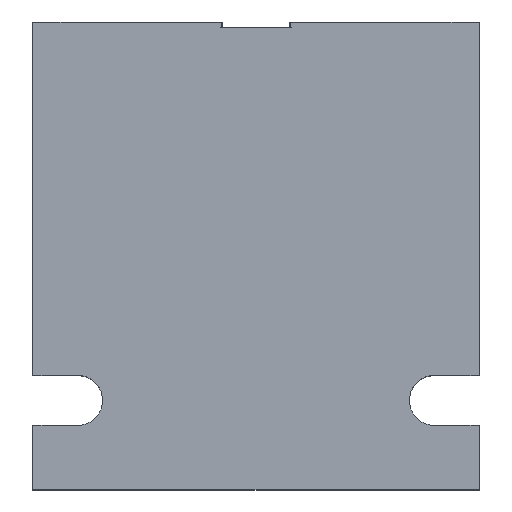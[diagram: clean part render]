
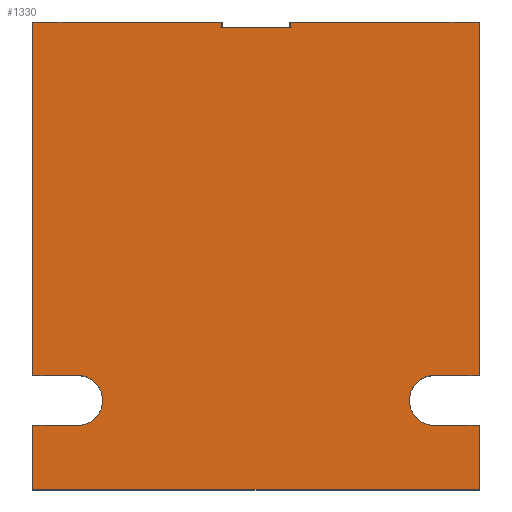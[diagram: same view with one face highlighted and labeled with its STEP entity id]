
A CAD part, top view. The second image highlights one B-rep face of the part: STEP entity #1330.
In plain terms, the highlighted planar face has unit normal (0, 0, 1).
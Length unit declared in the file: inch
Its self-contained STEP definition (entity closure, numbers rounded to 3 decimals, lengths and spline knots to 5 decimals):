
#9=DIRECTION('',(-1.,0.,0.));
#10=VECTOR('',#9,1.05767);
#11=CARTESIAN_POINT('',(2.5,0.,0.));
#12=LINE('',#11,#10);
#13=DIRECTION('',(-1.,0.,0.));
#14=VECTOR('',#13,1.05767);
#15=CARTESIAN_POINT('',(1.05767,0.,0.));
#16=LINE('',#15,#14);
#45=DIRECTION('',(1.,0.,0.));
#46=VECTOR('',#45,0.38467);
#47=CARTESIAN_POINT('',(1.05767,-0.031,0.));
#48=LINE('',#47,#46);
#49=DIRECTION('',(0.,1.,0.));
#50=VECTOR('',#49,0.031);
#51=CARTESIAN_POINT('',(1.44233,-0.031,0.));
#52=LINE('',#51,#50);
#53=DIRECTION('',(0.,-1.,0.));
#54=VECTOR('',#53,1.9795);
#55=CARTESIAN_POINT('',(2.5,0.,0.));
#56=LINE('',#55,#54);
#57=DIRECTION('',(-1.,0.,0.));
#58=VECTOR('',#57,0.25);
#59=CARTESIAN_POINT('',(2.5,-1.9795,0.));
#60=LINE('',#59,#58);
#61=CARTESIAN_POINT('',(2.25,-2.12,0.));
#62=DIRECTION('',(0.,0.,1.));
#63=DIRECTION('',(0.,1.,0.));
#64=AXIS2_PLACEMENT_3D('',#61,#62,#63);
#66=DIRECTION('',(-1.,0.,0.));
#67=VECTOR('',#66,0.25);
#68=CARTESIAN_POINT('',(2.5,-2.2605,0.));
#69=LINE('',#68,#67);
#70=DIRECTION('',(0.,-1.,0.));
#71=VECTOR('',#70,0.3595);
#72=CARTESIAN_POINT('',(2.5,-2.2605,0.));
#73=LINE('',#72,#71);
#74=DIRECTION('',(1.,0.,0.));
#75=VECTOR('',#74,0.25);
#76=CARTESIAN_POINT('',(0.,-2.2605,0.));
#77=LINE('',#76,#75);
#78=CARTESIAN_POINT('',(0.25,-2.12,0.));
#79=DIRECTION('',(0.,0.,1.));
#80=DIRECTION('',(0.,-1.,0.));
#81=AXIS2_PLACEMENT_3D('',#78,#79,#80);
#83=DIRECTION('',(1.,0.,0.));
#84=VECTOR('',#83,0.25);
#85=CARTESIAN_POINT('',(0.,-1.9795,0.));
#86=LINE('',#85,#84);
#87=DIRECTION('',(0.,1.,0.));
#88=VECTOR('',#87,0.031);
#89=CARTESIAN_POINT('',(1.05767,-0.031,0.));
#90=LINE('',#89,#88);
#310=DIRECTION('',(0.,-1.,0.));
#311=VECTOR('',#310,1.9795);
#312=CARTESIAN_POINT('',(0.,0.,0.));
#313=LINE('',#312,#311);
#318=DIRECTION('',(0.,-1.,0.));
#319=VECTOR('',#318,0.3595);
#320=CARTESIAN_POINT('',(0.,-2.2605,0.));
#321=LINE('',#320,#319);
#390=DIRECTION('',(-1.,0.,0.));
#391=VECTOR('',#390,2.5);
#392=CARTESIAN_POINT('',(2.5,-2.62,0.));
#393=LINE('',#392,#391);
#995=CARTESIAN_POINT('',(0.,0.,0.));
#997=VERTEX_POINT('',#995);
#1000=CARTESIAN_POINT('',(2.5,0.,0.));
#1002=VERTEX_POINT('',#1000);
#1003=CARTESIAN_POINT('',(0.,-2.62,0.));
#1005=VERTEX_POINT('',#1003);
#1009=CARTESIAN_POINT('',(2.5,-2.62,0.));
#1010=VERTEX_POINT('',#1009);
#1011=CARTESIAN_POINT('',(0.,-1.9795,0.));
#1013=VERTEX_POINT('',#1011);
#1015=CARTESIAN_POINT('',(0.,-2.2605,0.));
#1017=VERTEX_POINT('',#1015);
#1031=CARTESIAN_POINT('',(2.5,-2.2605,0.));
#1032=VERTEX_POINT('',#1031);
#1033=CARTESIAN_POINT('',(2.5,-1.9795,0.));
#1034=VERTEX_POINT('',#1033);
#1035=CARTESIAN_POINT('',(0.25,-2.2605,0.));
#1036=CARTESIAN_POINT('',(0.25,-1.9795,0.));
#1037=VERTEX_POINT('',#1035);
#1038=VERTEX_POINT('',#1036);
#1039=CARTESIAN_POINT('',(2.25,-1.9795,0.));
#1040=CARTESIAN_POINT('',(2.25,-2.2605,0.));
#1041=VERTEX_POINT('',#1039);
#1042=VERTEX_POINT('',#1040);
#1093=CARTESIAN_POINT('',(1.05767,-0.031,0.));
#1094=CARTESIAN_POINT('',(1.44233,-0.031,0.));
#1095=VERTEX_POINT('',#1093);
#1096=VERTEX_POINT('',#1094);
#1097=CARTESIAN_POINT('',(1.05767,0.,0.));
#1098=VERTEX_POINT('',#1097);
#1099=CARTESIAN_POINT('',(1.44233,0.,0.));
#1100=VERTEX_POINT('',#1099);
#1295=CARTESIAN_POINT('',(2.5,0.,0.));
#1296=DIRECTION('',(0.,0.,1.));
#1297=DIRECTION('',(-1.,0.,0.));
#1298=AXIS2_PLACEMENT_3D('',#1295,#1296,#1297);
#1299=PLANE('',#1298);
#1301=ORIENTED_EDGE('',*,*,#1300,.T.);
#1302=ORIENTED_EDGE('',*,*,#1271,.T.);
#1303=ORIENTED_EDGE('',*,*,#1244,.F.);
#1305=ORIENTED_EDGE('',*,*,#1304,.T.);
#1307=ORIENTED_EDGE('',*,*,#1306,.T.);
#1309=ORIENTED_EDGE('',*,*,#1308,.T.);
#1311=ORIENTED_EDGE('',*,*,#1310,.F.);
#1313=ORIENTED_EDGE('',*,*,#1312,.T.);
#1315=ORIENTED_EDGE('',*,*,#1314,.T.);
#1317=ORIENTED_EDGE('',*,*,#1316,.F.);
#1319=ORIENTED_EDGE('',*,*,#1318,.T.);
#1321=ORIENTED_EDGE('',*,*,#1320,.T.);
#1323=ORIENTED_EDGE('',*,*,#1322,.F.);
#1325=ORIENTED_EDGE('',*,*,#1324,.F.);
#1326=ORIENTED_EDGE('',*,*,#1256,.F.);
#1327=ORIENTED_EDGE('',*,*,#1287,.F.);
#1328=EDGE_LOOP('',(#1301,#1302,#1303,#1305,#1307,#1309,#1311,#1313,#1315,#1317,
#1319,#1321,#1323,#1325,#1326,#1327));
#1329=FACE_OUTER_BOUND('',#1328,.F.);
#1330=ADVANCED_FACE('',(#1329),#1299,.T.);
#65=CIRCLE('',#64,0.1405);
#82=CIRCLE('',#81,0.1405);
#1244=EDGE_CURVE('',#1002,#1100,#12,.T.);
#1256=EDGE_CURVE('',#1098,#997,#16,.T.);
#1271=EDGE_CURVE('',#1096,#1100,#52,.T.);
#1287=EDGE_CURVE('',#1095,#1098,#90,.T.);
#1300=EDGE_CURVE('',#1095,#1096,#48,.T.);
#1304=EDGE_CURVE('',#1002,#1034,#56,.T.);
#1306=EDGE_CURVE('',#1034,#1041,#60,.T.);
#1308=EDGE_CURVE('',#1041,#1042,#65,.T.);
#1310=EDGE_CURVE('',#1032,#1042,#69,.T.);
#1312=EDGE_CURVE('',#1032,#1010,#73,.T.);
#1314=EDGE_CURVE('',#1010,#1005,#393,.T.);
#1316=EDGE_CURVE('',#1017,#1005,#321,.T.);
#1318=EDGE_CURVE('',#1017,#1037,#77,.T.);
#1320=EDGE_CURVE('',#1037,#1038,#82,.T.);
#1322=EDGE_CURVE('',#1013,#1038,#86,.T.);
#1324=EDGE_CURVE('',#997,#1013,#313,.T.);
